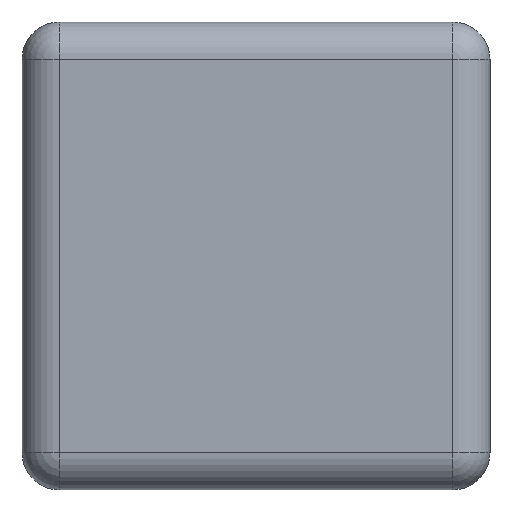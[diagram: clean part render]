
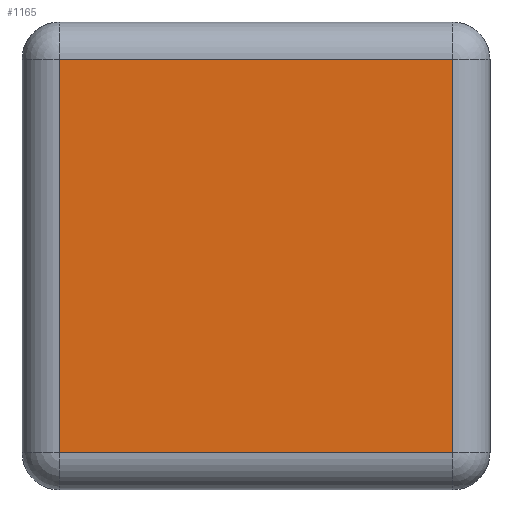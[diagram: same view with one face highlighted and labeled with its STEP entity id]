
A CAD part, left-side view. The second image highlights one B-rep face of the part: STEP entity #1165.
In plain terms, the highlighted planar face has unit normal (-1, 0, 0).
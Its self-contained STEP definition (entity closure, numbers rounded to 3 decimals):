
#186 = CYLINDRICAL_SURFACE('',#187,0.04);
#187 = AXIS2_PLACEMENT_3D('',#188,#189,#190);
#188 = CARTESIAN_POINT('',(-0.46,0.21,0.));
#189 = DIRECTION('',(0.,0.,1.));
#190 = DIRECTION('',(-0.,1.,0.));
#582 = VERTEX_POINT('',#583);
#583 = CARTESIAN_POINT('',(-0.5,0.21,0.04));
#603 = EDGE_CURVE('',#582,#604,#606,.T.);
#604 = VERTEX_POINT('',#605);
#605 = CARTESIAN_POINT('',(-0.5,0.21,0.46));
#606 = SURFACE_CURVE('',#607,(#611,#618),.PCURVE_S1.);
#607 = LINE('',#608,#609);
#608 = CARTESIAN_POINT('',(-0.5,0.21,0.));
#609 = VECTOR('',#610,1.);
#610 = DIRECTION('',(0.,0.,1.));
#611 = PCURVE('',#186,#612);
#612 = DEFINITIONAL_REPRESENTATION('',(#613),#617);
#613 = LINE('',#614,#615);
#614 = CARTESIAN_POINT('',(1.571,0.));
#615 = VECTOR('',#616,1.);
#616 = DIRECTION('',(0.,1.));
#617 = ( GEOMETRIC_REPRESENTATION_CONTEXT(2) 
PARAMETRIC_REPRESENTATION_CONTEXT() REPRESENTATION_CONTEXT('2D SPACE',''
  ) );
#618 = PCURVE('',#619,#624);
#619 = PLANE('',#620);
#620 = AXIS2_PLACEMENT_3D('',#621,#622,#623);
#621 = CARTESIAN_POINT('',(-0.5,-0.25,0.));
#622 = DIRECTION('',(-1.,0.,0.));
#623 = DIRECTION('',(0.,1.,0.));
#624 = DEFINITIONAL_REPRESENTATION('',(#625),#629);
#625 = LINE('',#626,#627);
#626 = CARTESIAN_POINT('',(0.46,0.));
#627 = VECTOR('',#628,1.);
#628 = DIRECTION('',(0.,-1.));
#629 = ( GEOMETRIC_REPRESENTATION_CONTEXT(2) 
PARAMETRIC_REPRESENTATION_CONTEXT() REPRESENTATION_CONTEXT('2D SPACE',''
  ) );
#1016 = CYLINDRICAL_SURFACE('',#1017,0.04);
#1017 = AXIS2_PLACEMENT_3D('',#1018,#1019,#1020);
#1018 = CARTESIAN_POINT('',(-0.46,-0.25,0.04));
#1019 = DIRECTION('',(0.,1.,0.));
#1020 = DIRECTION('',(-1.,0.,0.));
#1100 = CYLINDRICAL_SURFACE('',#1101,0.04);
#1101 = AXIS2_PLACEMENT_3D('',#1102,#1103,#1104);
#1102 = CARTESIAN_POINT('',(-0.46,-0.25,0.46));
#1103 = DIRECTION('',(0.,1.,0.));
#1104 = DIRECTION('',(-1.,0.,0.));
#1165 = ADVANCED_FACE('',(#1166),#619,.T.);
#1166 = FACE_BOUND('',#1167,.T.);
#1167 = EDGE_LOOP('',(#1168,#1198,#1219,#1220));
#1168 = ORIENTED_EDGE('',*,*,#1169,.T.);
#1169 = EDGE_CURVE('',#1170,#1172,#1174,.T.);
#1170 = VERTEX_POINT('',#1171);
#1171 = CARTESIAN_POINT('',(-0.5,-0.21,0.04));
#1172 = VERTEX_POINT('',#1173);
#1173 = CARTESIAN_POINT('',(-0.5,-0.21,0.46));
#1174 = SURFACE_CURVE('',#1175,(#1179,#1186),.PCURVE_S1.);
#1175 = LINE('',#1176,#1177);
#1176 = CARTESIAN_POINT('',(-0.5,-0.21,0.));
#1177 = VECTOR('',#1178,1.);
#1178 = DIRECTION('',(0.,0.,1.));
#1179 = PCURVE('',#619,#1180);
#1180 = DEFINITIONAL_REPRESENTATION('',(#1181),#1185);
#1181 = LINE('',#1182,#1183);
#1182 = CARTESIAN_POINT('',(0.04,0.));
#1183 = VECTOR('',#1184,1.);
#1184 = DIRECTION('',(0.,-1.));
#1185 = ( GEOMETRIC_REPRESENTATION_CONTEXT(2) 
PARAMETRIC_REPRESENTATION_CONTEXT() REPRESENTATION_CONTEXT('2D SPACE',''
  ) );
#1186 = PCURVE('',#1187,#1192);
#1187 = CYLINDRICAL_SURFACE('',#1188,0.04);
#1188 = AXIS2_PLACEMENT_3D('',#1189,#1190,#1191);
#1189 = CARTESIAN_POINT('',(-0.46,-0.21,0.));
#1190 = DIRECTION('',(0.,0.,1.));
#1191 = DIRECTION('',(-1.,0.,0.));
#1192 = DEFINITIONAL_REPRESENTATION('',(#1193),#1197);
#1193 = LINE('',#1194,#1195);
#1194 = CARTESIAN_POINT('',(0.,0.));
#1195 = VECTOR('',#1196,1.);
#1196 = DIRECTION('',(0.,1.));
#1197 = ( GEOMETRIC_REPRESENTATION_CONTEXT(2) 
PARAMETRIC_REPRESENTATION_CONTEXT() REPRESENTATION_CONTEXT('2D SPACE',''
  ) );
#1198 = ORIENTED_EDGE('',*,*,#1199,.T.);
#1199 = EDGE_CURVE('',#1172,#604,#1200,.T.);
#1200 = SURFACE_CURVE('',#1201,(#1205,#1212),.PCURVE_S1.);
#1201 = LINE('',#1202,#1203);
#1202 = CARTESIAN_POINT('',(-0.5,-0.25,0.46));
#1203 = VECTOR('',#1204,1.);
#1204 = DIRECTION('',(0.,1.,0.));
#1205 = PCURVE('',#619,#1206);
#1206 = DEFINITIONAL_REPRESENTATION('',(#1207),#1211);
#1207 = LINE('',#1208,#1209);
#1208 = CARTESIAN_POINT('',(0.,-0.46));
#1209 = VECTOR('',#1210,1.);
#1210 = DIRECTION('',(1.,0.));
#1211 = ( GEOMETRIC_REPRESENTATION_CONTEXT(2) 
PARAMETRIC_REPRESENTATION_CONTEXT() REPRESENTATION_CONTEXT('2D SPACE',''
  ) );
#1212 = PCURVE('',#1100,#1213);
#1213 = DEFINITIONAL_REPRESENTATION('',(#1214),#1218);
#1214 = LINE('',#1215,#1216);
#1215 = CARTESIAN_POINT('',(0.,0.));
#1216 = VECTOR('',#1217,1.);
#1217 = DIRECTION('',(0.,1.));
#1218 = ( GEOMETRIC_REPRESENTATION_CONTEXT(2) 
PARAMETRIC_REPRESENTATION_CONTEXT() REPRESENTATION_CONTEXT('2D SPACE',''
  ) );
#1219 = ORIENTED_EDGE('',*,*,#603,.F.);
#1220 = ORIENTED_EDGE('',*,*,#1221,.F.);
#1221 = EDGE_CURVE('',#1170,#582,#1222,.T.);
#1222 = SURFACE_CURVE('',#1223,(#1227,#1234),.PCURVE_S1.);
#1223 = LINE('',#1224,#1225);
#1224 = CARTESIAN_POINT('',(-0.5,-0.25,0.04));
#1225 = VECTOR('',#1226,1.);
#1226 = DIRECTION('',(0.,1.,0.));
#1227 = PCURVE('',#619,#1228);
#1228 = DEFINITIONAL_REPRESENTATION('',(#1229),#1233);
#1229 = LINE('',#1230,#1231);
#1230 = CARTESIAN_POINT('',(0.,-0.04));
#1231 = VECTOR('',#1232,1.);
#1232 = DIRECTION('',(1.,0.));
#1233 = ( GEOMETRIC_REPRESENTATION_CONTEXT(2) 
PARAMETRIC_REPRESENTATION_CONTEXT() REPRESENTATION_CONTEXT('2D SPACE',''
  ) );
#1234 = PCURVE('',#1016,#1235);
#1235 = DEFINITIONAL_REPRESENTATION('',(#1236),#1240);
#1236 = LINE('',#1237,#1238);
#1237 = CARTESIAN_POINT('',(-0.,0.));
#1238 = VECTOR('',#1239,1.);
#1239 = DIRECTION('',(-0.,1.));
#1240 = ( GEOMETRIC_REPRESENTATION_CONTEXT(2) 
PARAMETRIC_REPRESENTATION_CONTEXT() REPRESENTATION_CONTEXT('2D SPACE',''
  ) );
